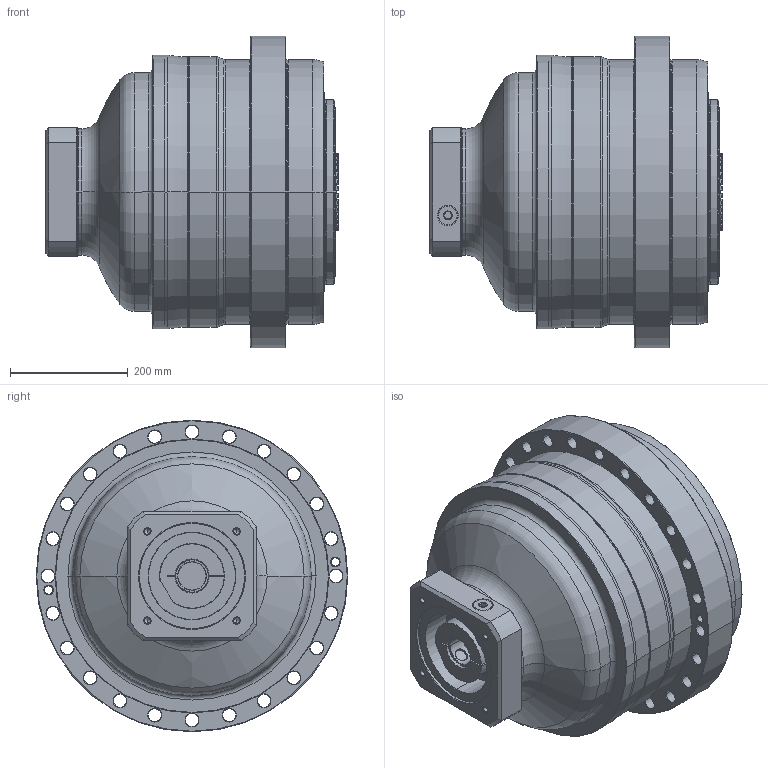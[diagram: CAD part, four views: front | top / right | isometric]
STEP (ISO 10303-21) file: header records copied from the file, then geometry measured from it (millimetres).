
FILE_DESCRIPTION((''),'2;1');
FILE_NAME('APC450_2ST_48-P0409B50201_ASM','2018-06-29T',('d01226'),(''),'PRO/ENGINEER BY PARAMETRIC TECHNOLOGY CORPORATION, 2008410','PRO/ENGINEER BY PARAMETRIC TECHNOLOGY CORPORATION, 2008410','');
FILE_SCHEMA(('CONFIG_CONTROL_DESIGN'));
Length unit declared in the file: millimetre
Products named in the file (9): P0276201003; P03572B0103; P1339210301; P0503B00016; P0962203001; P1222200001; P0409B50201; 21711426021; APC450_2ST_48-P0409B50201_ASM
Assembly tree (8 placements, depth 2):
  APC450_2ST_48-P0409B50201_ASM
    P0276201003
    P03572B0103
    P1339210301
    P0503B00016
    P0962203001
    P1222200001
    P0409B50201
    21711426021
Bounding box: 497.1 x 530 x 530 mm (x, y, z)
Volume: 72384591.7 mm3; surface area: 2115900 mm2
Topology: 9 solids, 34 shells, 1009 faces, 2487 edges, 1517 vertices
Faces by surface type: cone 340, cylinder 304, plane 185, torus 166, bspline 14
Entity records: 36204 total; most frequent: CARTESIAN_POINT 11995, DIRECTION 5431, ORIENTED_EDGE 4776, EDGE_CURVE 2437, AXIS2_PLACEMENT_3D 2365, VERTEX_POINT 1517, CIRCLE 1341, EDGE_LOOP 1146
